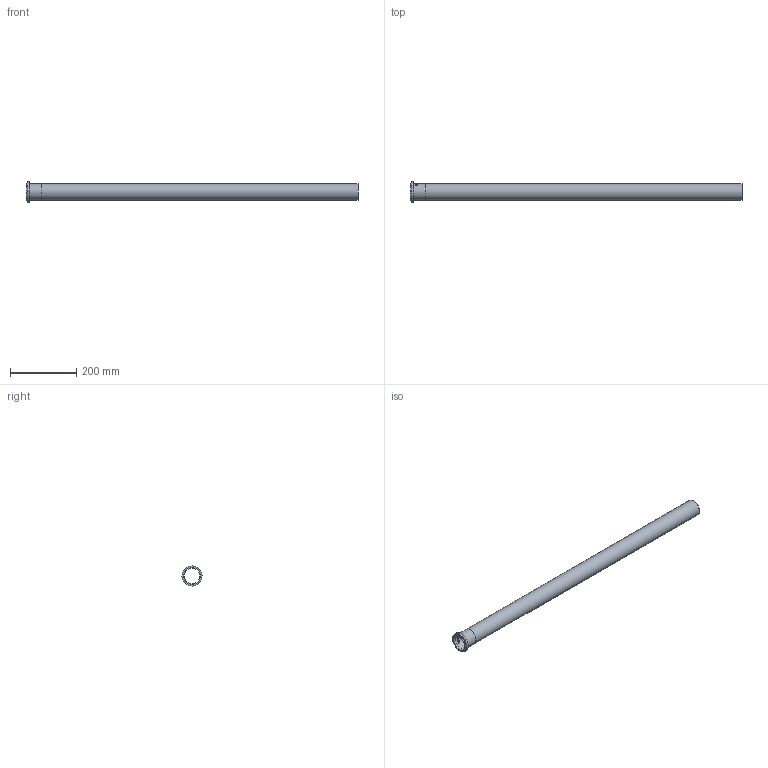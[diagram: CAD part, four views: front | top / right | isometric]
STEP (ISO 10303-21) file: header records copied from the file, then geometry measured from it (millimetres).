
FILE_DESCRIPTION((''),'2;1');
FILE_NAME('I:\WATTS\3D_CAD\3D_CAD_Models\Blucher_Drains\P_StraightPipe\WebsiteFiles\3D\STEP\P2-3.3-316.stp','2009-12-02T13:28:14',('menesek'),(''),'Autodesk Inventor 2010','Autodesk Inventor 2010','');
FILE_SCHEMA(('AUTOMOTIVE_DESIGN { 1 0 10303 214 1 1 1 1 }'));
Length unit declared in the file: inch
Products named in the file (1): P2-3.3-316
Bounding box: 1000 x 60.96 x 60.96 mm (x, y, z)
Volume: 164995 mm3; surface area: 310604.2 mm2
Topology: 1 solids, 1 shells, 109 faces, 285 edges, 190 vertices
Faces by surface type: plane 59, bspline 34, cylinder 16
Full cylindrical faces by diameter (mm): 48.006 x1, 50.038 x1, 50.8 x2, 60.96 x1
Entity records: 13765 total; most frequent: CARTESIAN_POINT 11387, ORIENTED_EDGE 548, DIRECTION 356, EDGE_CURVE 274, VERTEX_POINT 186, EDGE_LOOP 128, AXIS2_PLACEMENT_3D 120, VECTOR 116
